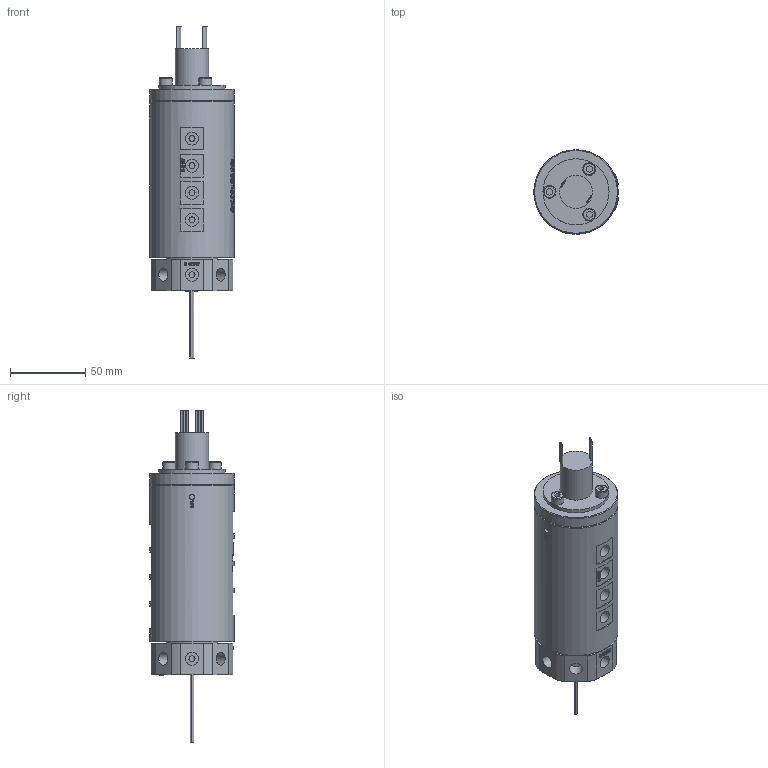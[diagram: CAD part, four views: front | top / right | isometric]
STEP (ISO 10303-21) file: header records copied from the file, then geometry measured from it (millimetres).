
FILE_DESCRIPTION(/* description */ (''),/* implementation_level */ '2;1');
FILE_NAME(/* name */ 'HQ0801-18M.stp',/* time_stamp */ '2025-02-14T11:58:15+08:00',/* author */ (''),/* organization */ (''),/* preprocessor_version */ 'ST-DEVELOPER v16.7',/* originating_system */ 'SIEMENS PLM Software NX 12.0',/* authorisation */ '');
FILE_SCHEMA (('AUTOMOTIVE_DESIGN { 1 0 10303 214 3 1 1 1 }'));
Length unit declared in the file: millimetre
Products named in the file (1): HX0540E8A2D8ngjd
Bounding box: 56.99 x 56 x 220.7 mm (x, y, z)
Volume: 326584.8 mm3; surface area: 46205.2 mm2
Topology: 1 solids, 5 shells, 1170 faces, 3074 edges, 2072 vertices
Faces by surface type: extrusion 503, plane 495, cylinder 132, bspline 30, cone 7, torus 3
Full cylindrical faces by diameter (mm): 0.8 x22, 3.4 x6, 4 x24, 4.1 x8, 4.2 x8, 5 x3, 5.5 x3, 8 x2, 8.5 x19, 22 x1, 34 x1, 44 x1, 56 x2
Entity records: 41995 total; most frequent: CARTESIAN_POINT 17433, ORIENTED_EDGE 5756, DIRECTION 3139, EDGE_CURVE 2878, B_SPLINE_CURVE_WITH_KNOTS 2414, VERTEX_POINT 1999, EDGE_LOOP 1459, ADVANCED_FACE 1167
